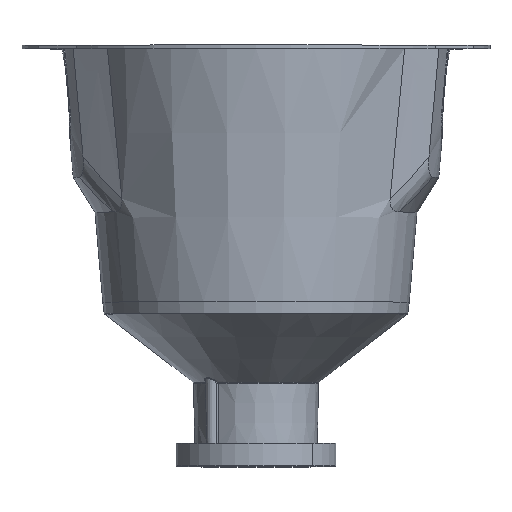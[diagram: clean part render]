
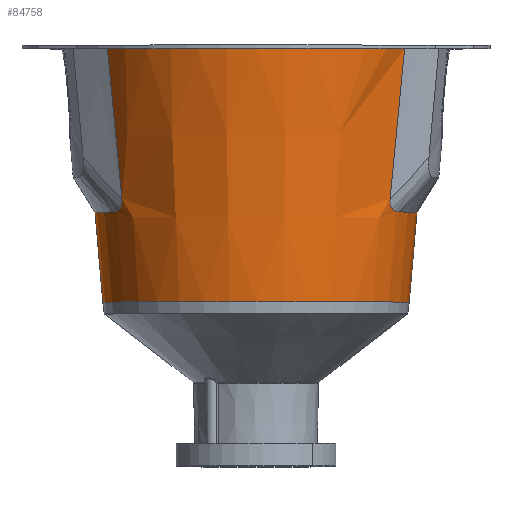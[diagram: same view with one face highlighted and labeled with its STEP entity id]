
A CAD part, top view. The second image highlights one B-rep face of the part: STEP entity #84758.
In plain terms, the highlighted conical face has half-angle 4.938 degrees and reference radius 70.313 mm.
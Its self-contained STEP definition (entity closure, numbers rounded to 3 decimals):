
#77548=CARTESIAN_POINT('',(-26.9,0.,-9.6));
#77549=DIRECTION('',(-1.,0.,0.));
#77550=DIRECTION('',(0.,-1.,0.));
#77551=AXIS2_PLACEMENT_3D('',#77548,#77549,#77550);
#77717=DIRECTION('',(-0.996,0.086,0.));
#77718=VECTOR('',#77717,38.699);
#77719=CARTESIAN_POINT('',(-26.9,65.626,-9.6));
#77720=LINE('',#77719,#77718);
#77783=CARTESIAN_POINT('',(-65.456,0.,-9.6));
#77784=DIRECTION('',(1.,0.,0.));
#77785=DIRECTION('',(0.,1.,0.));
#77786=AXIS2_PLACEMENT_3D('',#77783,#77784,#77785);
#77798=CARTESIAN_POINT('',(-135.4,63.658,
30.056));
#77799=CARTESIAN_POINT('',(-128.268,62.974,
29.99));
#77800=CARTESIAN_POINT('',(-113.997,61.604,
29.849));
#77801=CARTESIAN_POINT('',(-92.567,59.535,
29.636));
#77802=CARTESIAN_POINT('',(-78.265,58.146,
29.491));
#77803=CARTESIAN_POINT('',(-71.11,57.451,
29.414));
#77805=CARTESIAN_POINT('',(-71.11,57.451,
29.414));
#77806=CARTESIAN_POINT('',(-70.824,57.423,
29.411));
#77807=CARTESIAN_POINT('',(-70.283,57.388,
29.379));
#77808=CARTESIAN_POINT('',(-69.578,57.394,
29.262));
#77809=CARTESIAN_POINT('',(-68.951,57.449,
29.084));
#77810=CARTESIAN_POINT('',(-68.394,57.548,
28.85));
#77811=CARTESIAN_POINT('',(-67.884,57.691,
28.555));
#77812=CARTESIAN_POINT('',(-67.416,57.88,
28.194));
#77813=CARTESIAN_POINT('',(-66.979,58.123,
27.751));
#77814=CARTESIAN_POINT('',(-66.574,58.427,
27.208));
#77815=CARTESIAN_POINT('',(-66.208,58.803,
26.545));
#77816=CARTESIAN_POINT('',(-65.896,59.252,
25.752));
#77817=CARTESIAN_POINT('',(-65.654,59.774,
24.822));
#77818=CARTESIAN_POINT('',(-65.495,60.367,
23.746));
#77819=CARTESIAN_POINT('',(-65.456,60.809,
22.92));
#77820=CARTESIAN_POINT('',(-65.456,61.04,
22.48));
#77822=DIRECTION('',(-0.996,-0.086,0.));
#77823=VECTOR('',#77822,38.699);
#77824=CARTESIAN_POINT('',(-26.9,-65.626,-9.6));
#77825=LINE('',#77824,#77823);
#77826=CARTESIAN_POINT('',(-65.456,0.,-9.6));
#77827=DIRECTION('',(-1.,0.,0.));
#77828=DIRECTION('',(0.,-1.,0.));
#77829=AXIS2_PLACEMENT_3D('',#77826,#77827,#77828);
#77831=CARTESIAN_POINT('',(-65.456,-61.041,
22.48));
#77832=CARTESIAN_POINT('',(-65.456,-60.81,
22.918));
#77833=CARTESIAN_POINT('',(-65.495,-60.37,
23.741));
#77834=CARTESIAN_POINT('',(-65.653,-59.777,
24.817));
#77835=CARTESIAN_POINT('',(-65.895,-59.254,
25.75));
#77836=CARTESIAN_POINT('',(-66.209,-58.802,
26.548));
#77837=CARTESIAN_POINT('',(-66.576,-58.425,
27.212));
#77838=CARTESIAN_POINT('',(-66.983,-58.12,
27.756));
#77839=CARTESIAN_POINT('',(-67.418,-57.879,
28.196));
#77840=CARTESIAN_POINT('',(-67.887,-57.69,
28.557));
#77841=CARTESIAN_POINT('',(-68.392,-57.548,
28.849));
#77842=CARTESIAN_POINT('',(-68.953,-57.449,
29.085));
#77843=CARTESIAN_POINT('',(-69.579,-57.394,
29.262));
#77844=CARTESIAN_POINT('',(-70.285,-57.388,
29.379));
#77845=CARTESIAN_POINT('',(-70.825,-57.423,
29.411));
#77846=CARTESIAN_POINT('',(-71.11,-57.451,
29.414));
#77848=CARTESIAN_POINT('',(-71.11,-57.451,
29.414));
#77849=CARTESIAN_POINT('',(-78.265,-58.146,
29.491));
#77850=CARTESIAN_POINT('',(-92.567,-59.535,
29.636));
#77851=CARTESIAN_POINT('',(-113.997,-61.604,
29.849));
#77852=CARTESIAN_POINT('',(-128.268,-62.974,
29.99));
#77853=CARTESIAN_POINT('',(-135.4,-63.658,
30.056));
#77855=CARTESIAN_POINT('',(-135.4,63.658,
30.056));
#77959=CARTESIAN_POINT('',(-135.4,0.,-9.6));
#77960=DIRECTION('',(1.,0.,0.));
#77961=DIRECTION('',(0.,0.849,0.529));
#77962=AXIS2_PLACEMENT_3D('',#77959,#77960,#77961);
#78442=CARTESIAN_POINT('',(-71.11,-57.451,
29.414));
#83528=VERTEX_POINT('',#77855);
#83529=CARTESIAN_POINT('',(-135.4,-63.659,30.056));
#83530=VERTEX_POINT('',#83529);
#83629=CARTESIAN_POINT('',(-65.456,-68.957,
-9.6));
#83630=VERTEX_POINT('',#83629);
#83631=CARTESIAN_POINT('',(-26.9,-65.626,-9.6));
#83632=VERTEX_POINT('',#83631);
#83633=CARTESIAN_POINT('',(-26.9,65.626,-9.6));
#83634=VERTEX_POINT('',#83633);
#83635=CARTESIAN_POINT('',(-65.456,68.957,-9.6));
#83636=VERTEX_POINT('',#83635);
#83713=VERTEX_POINT('',#78442);
#83714=VERTEX_POINT('',#77831);
#83715=VERTEX_POINT('',#77803);
#83716=VERTEX_POINT('',#77820);
#84735=CARTESIAN_POINT('',(-81.15,0.,-9.6));
#84736=DIRECTION('',(-1.,0.,0.));
#84737=DIRECTION('',(0.,-1.,0.));
#84738=AXIS2_PLACEMENT_3D('',#84735,#84736,#84737);
#84739=CONICAL_SURFACE('',#84738,70.313,4.938);
#84741=ORIENTED_EDGE('',*,*,#84740,.T.);
#84743=ORIENTED_EDGE('',*,*,#84742,.T.);
#84744=ORIENTED_EDGE('',*,*,#84723,.F.);
#84745=ORIENTED_EDGE('',*,*,#84615,.F.);
#84746=ORIENTED_EDGE('',*,*,#84538,.F.);
#84747=ORIENTED_EDGE('',*,*,#84612,.T.);
#84749=ORIENTED_EDGE('',*,*,#84748,.T.);
#84751=ORIENTED_EDGE('',*,*,#84750,.T.);
#84753=ORIENTED_EDGE('',*,*,#84752,.T.);
#84755=ORIENTED_EDGE('',*,*,#84754,.F.);
#84756=EDGE_LOOP('',(#84741,#84743,#84744,#84745,#84746,#84747,#84749,#84751,
#84753,#84755));
#84757=FACE_OUTER_BOUND('',#84756,.F.);
#84758=ADVANCED_FACE('',(#84757),#84739,.T.);
#77552=CIRCLE('',#77551,65.626);
#77787=CIRCLE('',#77786,68.957);
#77804=B_SPLINE_CURVE_WITH_KNOTS('',3,(#77798,#77799,#77800,#77801,#77802,
#77803),.UNSPECIFIED.,.F.,.F.,(4,1,1,4),(0.,0.333,
0.667,1.),.UNSPECIFIED.);
#77821=B_SPLINE_CURVE_WITH_KNOTS('',3,(#77805,#77806,#77807,#77808,#77809,
#77810,#77811,#77812,#77813,#77814,#77815,#77816,#77817,#77818,#77819,#77820),
.UNSPECIFIED.,.F.,.F.,(4,1,1,1,1,1,1,1,1,1,1,1,1,4),(0.,0.077,
0.154,0.231,0.308,0.385,
0.462,0.538,0.615,0.692,
0.769,0.846,0.923,1.),.UNSPECIFIED.);
#77830=CIRCLE('',#77829,68.957);
#77847=B_SPLINE_CURVE_WITH_KNOTS('',3,(#77831,#77832,#77833,#77834,#77835,
#77836,#77837,#77838,#77839,#77840,#77841,#77842,#77843,#77844,#77845,#77846),
.UNSPECIFIED.,.F.,.F.,(4,1,1,1,1,1,1,1,1,1,1,1,1,4),(0.,0.077,
0.154,0.231,0.308,0.385,
0.462,0.538,0.615,0.692,
0.769,0.846,0.923,1.),.UNSPECIFIED.);
#77854=B_SPLINE_CURVE_WITH_KNOTS('',3,(#77848,#77849,#77850,#77851,#77852,
#77853),.UNSPECIFIED.,.F.,.F.,(4,1,1,4),(0.,0.333,
0.667,1.),.UNSPECIFIED.);
#77963=CIRCLE('',#77962,75.);
#84538=EDGE_CURVE('',#83632,#83634,#77552,.T.);
#84612=EDGE_CURVE('',#83632,#83630,#77825,.T.);
#84615=EDGE_CURVE('',#83634,#83636,#77720,.T.);
#84723=EDGE_CURVE('',#83636,#83716,#77787,.T.);
#84740=EDGE_CURVE('',#83528,#83715,#77804,.T.);
#84742=EDGE_CURVE('',#83715,#83716,#77821,.T.);
#84748=EDGE_CURVE('',#83630,#83714,#77830,.T.);
#84750=EDGE_CURVE('',#83714,#83713,#77847,.T.);
#84752=EDGE_CURVE('',#83713,#83530,#77854,.T.);
#84754=EDGE_CURVE('',#83528,#83530,#77963,.T.);
